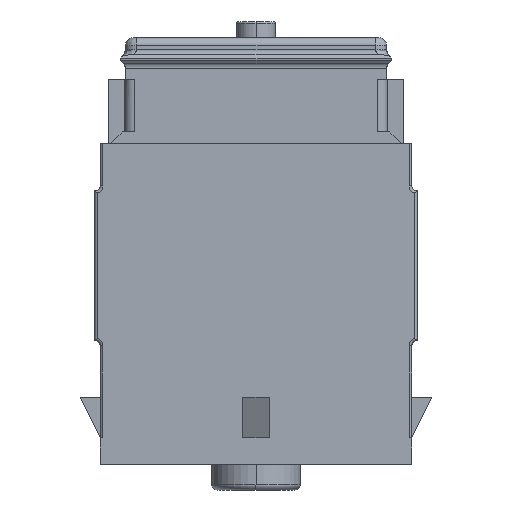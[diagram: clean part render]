
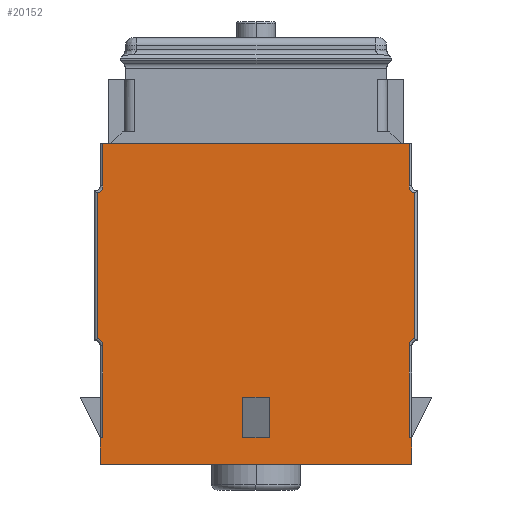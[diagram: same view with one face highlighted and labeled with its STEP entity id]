
A CAD part, left-side view. The second image highlights one B-rep face of the part: STEP entity #20152.
In plain terms, the highlighted planar face has unit normal (-1, 0, 0).
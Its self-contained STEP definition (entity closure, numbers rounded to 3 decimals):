
#133=DIRECTION('',(0.,0.,1.));
#134=VECTOR('',#133,8.712);
#135=CARTESIAN_POINT('',(-36.424,-14.503,-36.5));
#136=LINE('',#135,#134);
#137=DIRECTION('',(0.,0.,-1.));
#138=VECTOR('',#137,2.54);
#139=CARTESIAN_POINT('',(-36.424,-14.757,-36.5));
#140=LINE('',#139,#138);
#141=DIRECTION('',(0.,0.,-1.));
#142=VECTOR('',#141,8.712);
#143=CARTESIAN_POINT('',(-36.424,14.503,-27.788));
#144=LINE('',#143,#142);
#145=CARTESIAN_POINT('',(-36.424,15.215,-27.788));
#146=DIRECTION('',(1.,0.,0.));
#147=DIRECTION('',(0.,-0.286,0.958));
#148=AXIS2_PLACEMENT_3D('',#145,#146,#147);
#150=DIRECTION('',(0.,0.,-1.));
#151=VECTOR('',#150,13.775);
#152=CARTESIAN_POINT('',(-36.424,15.011,-13.331));
#153=LINE('',#152,#151);
#154=CARTESIAN_POINT('',(-36.424,15.215,-12.649));
#155=DIRECTION('',(1.,0.,0.));
#156=DIRECTION('',(0.,-1.,0.));
#157=AXIS2_PLACEMENT_3D('',#154,#155,#156);
#159=DIRECTION('',(0.,0.,-1.));
#160=VECTOR('',#159,3.988);
#161=CARTESIAN_POINT('',(-36.424,14.503,-8.661));
#162=LINE('',#161,#160);
#163=DIRECTION('',(0.,-1.,0.));
#164=VECTOR('',#163,29.007);
#165=CARTESIAN_POINT('',(-36.424,14.503,-8.661));
#166=LINE('',#165,#164);
#167=DIRECTION('',(0.,0.,1.));
#168=VECTOR('',#167,3.988);
#169=CARTESIAN_POINT('',(-36.424,-14.503,-12.649));
#170=LINE('',#169,#168);
#171=CARTESIAN_POINT('',(-36.424,-15.215,-12.649));
#172=DIRECTION('',(1.,0.,0.));
#173=DIRECTION('',(0.,0.286,-0.958));
#174=AXIS2_PLACEMENT_3D('',#171,#172,#173);
#176=DIRECTION('',(0.,0.,1.));
#177=VECTOR('',#176,13.775);
#178=CARTESIAN_POINT('',(-36.424,-15.011,-27.106));
#179=LINE('',#178,#177);
#180=CARTESIAN_POINT('',(-36.424,-15.215,-27.788));
#181=DIRECTION('',(1.,0.,0.));
#182=DIRECTION('',(0.,1.,0.));
#183=AXIS2_PLACEMENT_3D('',#180,#181,#182);
#185=DIRECTION('',(0.,0.,1.));
#186=VECTOR('',#185,3.81);
#187=CARTESIAN_POINT('',(-36.424,1.27,-36.5));
#188=LINE('',#187,#186);
#189=DIRECTION('',(0.,0.,1.));
#190=VECTOR('',#189,3.81);
#191=CARTESIAN_POINT('',(-36.424,-1.27,-36.5));
#192=LINE('',#191,#190);
#193=DIRECTION('',(0.,-1.,0.));
#194=VECTOR('',#193,2.54);
#195=CARTESIAN_POINT('',(-36.424,1.27,-32.69));
#196=LINE('',#195,#194);
#206=DIRECTION('',(0.,1.,0.));
#207=VECTOR('',#206,0.254);
#208=CARTESIAN_POINT('',(-36.424,-14.757,-36.5));
#209=LINE('',#208,#207);
#218=DIRECTION('',(0.,1.,0.));
#219=VECTOR('',#218,0.254);
#220=CARTESIAN_POINT('',(-36.424,14.503,-36.5));
#221=LINE('',#220,#219);
#379=DIRECTION('',(0.,1.,0.));
#380=VECTOR('',#379,2.54);
#381=CARTESIAN_POINT('',(-36.424,-1.27,-36.5));
#382=LINE('',#381,#380);
#700=CARTESIAN_POINT('',(-36.424,-15.011,-27.106));
#710=CARTESIAN_POINT('',(-36.424,-15.011,-13.331));
#6726=CARTESIAN_POINT('',(-36.424,15.011,-13.331));
#6781=DIRECTION('',(0.,0.,-1.));
#6782=VECTOR('',#6781,2.54);
#6783=CARTESIAN_POINT('',(-36.424,14.757,-36.5));
#6784=LINE('',#6783,#6782);
#6897=DIRECTION('',(0.,1.,0.));
#6898=VECTOR('',#6897,29.515);
#6899=CARTESIAN_POINT('',(-36.424,-14.757,-39.04));
#6900=LINE('',#6899,#6898);
#16640=CARTESIAN_POINT('',(-36.424,1.27,-32.69));
#16641=CARTESIAN_POINT('',(-36.424,-1.27,-32.69));
#16642=VERTEX_POINT('',#16640);
#16643=VERTEX_POINT('',#16641);
#16681=CARTESIAN_POINT('',(-36.424,-14.757,-39.04));
#16683=VERTEX_POINT('',#16681);
#16684=CARTESIAN_POINT('',(-36.424,14.757,-39.04));
#16685=VERTEX_POINT('',#16684);
#16690=CARTESIAN_POINT('',(-36.424,-14.757,-36.5));
#16691=VERTEX_POINT('',#16690);
#16692=CARTESIAN_POINT('',(-36.424,14.757,-36.5));
#16693=VERTEX_POINT('',#16692);
#16704=CARTESIAN_POINT('',(-36.424,-1.27,-36.5));
#16705=CARTESIAN_POINT('',(-36.424,1.27,-36.5));
#16706=VERTEX_POINT('',#16704);
#16707=VERTEX_POINT('',#16705);
#17176=VERTEX_POINT('',#710);
#17178=VERTEX_POINT('',#700);
#17189=VERTEX_POINT('',#6726);
#18165=CARTESIAN_POINT('',(-36.424,14.503,-8.661));
#18167=VERTEX_POINT('',#18165);
#18168=CARTESIAN_POINT('',(-36.424,14.503,-12.649));
#18169=VERTEX_POINT('',#18168);
#18176=CARTESIAN_POINT('',(-36.424,15.011,-27.106));
#18177=VERTEX_POINT('',#18176);
#18178=CARTESIAN_POINT('',(-36.424,14.503,-27.788));
#18179=VERTEX_POINT('',#18178);
#18208=CARTESIAN_POINT('',(-36.424,-14.503,-27.788));
#18209=VERTEX_POINT('',#18208);
#18212=CARTESIAN_POINT('',(-36.424,-14.503,-8.661));
#18214=VERTEX_POINT('',#18212);
#18218=CARTESIAN_POINT('',(-36.424,-14.503,-12.649));
#18219=VERTEX_POINT('',#18218);
#18234=CARTESIAN_POINT('',(-36.424,-14.503,-36.5));
#18236=VERTEX_POINT('',#18234);
#18242=CARTESIAN_POINT('',(-36.424,14.503,-36.5));
#18244=VERTEX_POINT('',#18242);
#20103=CARTESIAN_POINT('',(-36.424,0.,0.));
#20104=DIRECTION('',(1.,0.,0.));
#20105=DIRECTION('',(0.,1.,0.));
#20106=AXIS2_PLACEMENT_3D('',#20103,#20104,#20105);
#20107=PLANE('',#20106);
#20109=ORIENTED_EDGE('',*,*,#20108,.F.);
#20111=ORIENTED_EDGE('',*,*,#20110,.F.);
#20113=ORIENTED_EDGE('',*,*,#20112,.T.);
#20115=ORIENTED_EDGE('',*,*,#20114,.T.);
#20117=ORIENTED_EDGE('',*,*,#20116,.F.);
#20119=ORIENTED_EDGE('',*,*,#20118,.F.);
#20121=ORIENTED_EDGE('',*,*,#20120,.F.);
#20123=ORIENTED_EDGE('',*,*,#20122,.F.);
#20125=ORIENTED_EDGE('',*,*,#20124,.F.);
#20127=ORIENTED_EDGE('',*,*,#20126,.F.);
#20129=ORIENTED_EDGE('',*,*,#20128,.F.);
#20131=ORIENTED_EDGE('',*,*,#20130,.T.);
#20133=ORIENTED_EDGE('',*,*,#20132,.F.);
#20135=ORIENTED_EDGE('',*,*,#20134,.F.);
#20137=ORIENTED_EDGE('',*,*,#20136,.F.);
#20139=ORIENTED_EDGE('',*,*,#20138,.F.);
#20140=EDGE_LOOP('',(#20109,#20111,#20113,#20115,#20117,#20119,#20121,#20123,
#20125,#20127,#20129,#20131,#20133,#20135,#20137,#20139));
#20141=FACE_OUTER_BOUND('',#20140,.F.);
#20143=ORIENTED_EDGE('',*,*,#20142,.F.);
#20145=ORIENTED_EDGE('',*,*,#20144,.F.);
#20147=ORIENTED_EDGE('',*,*,#20146,.T.);
#20149=ORIENTED_EDGE('',*,*,#20148,.F.);
#20150=EDGE_LOOP('',(#20143,#20145,#20147,#20149));
#20151=FACE_BOUND('',#20150,.F.);
#20152=ADVANCED_FACE('',(#20141,#20151),#20107,.F.);
#149=CIRCLE('',#148,0.711);
#158=CIRCLE('',#157,0.711);
#175=CIRCLE('',#174,0.711);
#184=CIRCLE('',#183,0.711);
#20108=EDGE_CURVE('',#18236,#18209,#136,.T.);
#20110=EDGE_CURVE('',#16691,#18236,#209,.T.);
#20112=EDGE_CURVE('',#16691,#16683,#140,.T.);
#20114=EDGE_CURVE('',#16683,#16685,#6900,.T.);
#20116=EDGE_CURVE('',#16693,#16685,#6784,.T.);
#20118=EDGE_CURVE('',#18244,#16693,#221,.T.);
#20120=EDGE_CURVE('',#18179,#18244,#144,.T.);
#20122=EDGE_CURVE('',#18177,#18179,#149,.T.);
#20124=EDGE_CURVE('',#17189,#18177,#153,.T.);
#20126=EDGE_CURVE('',#18169,#17189,#158,.T.);
#20128=EDGE_CURVE('',#18167,#18169,#162,.T.);
#20130=EDGE_CURVE('',#18167,#18214,#166,.T.);
#20132=EDGE_CURVE('',#18219,#18214,#170,.T.);
#20134=EDGE_CURVE('',#17176,#18219,#175,.T.);
#20136=EDGE_CURVE('',#17178,#17176,#179,.T.);
#20138=EDGE_CURVE('',#18209,#17178,#184,.T.);
#20142=EDGE_CURVE('',#16707,#16642,#188,.T.);
#20144=EDGE_CURVE('',#16706,#16707,#382,.T.);
#20146=EDGE_CURVE('',#16706,#16643,#192,.T.);
#20148=EDGE_CURVE('',#16642,#16643,#196,.T.);
